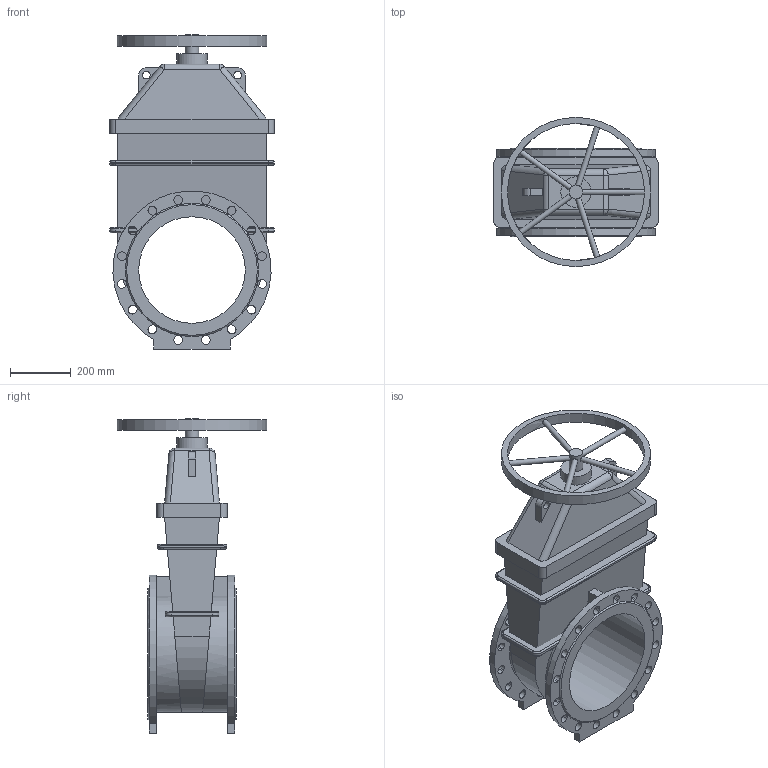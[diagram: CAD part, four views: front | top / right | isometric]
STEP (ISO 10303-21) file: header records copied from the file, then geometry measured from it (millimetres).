
FILE_DESCRIPTION(('STEP AP203'), '1');
FILE_NAME('Çàäâèæêà 47GV.Z DN350 PN10_PN16 ñ ìàõîâèêîì', '', ('UNSPECIFIED'), ('UNSPECIFIED'), 'ASCON STEP Converter 1.6', 'ASCON Math Kernel', '');
FILE_SCHEMA(('CONFIG_CONTROL_DESIGN'));
Length unit declared in the file: millimetre
Bounding box: 540 x 490 x 1032.5 mm (x, y, z)
Volume: 53957350.5 mm3; surface area: 2301676.6 mm2
Topology: 1 solids, 1 shells, 289 faces, 846 edges, 528 vertices
Faces by surface type: plane 143, cylinder 124, bspline 14, torus 6, cone 2
Full cylindrical faces by diameter (mm): 18 x5, 25 x2, 45 x1, 100 x1, 350 x1, 450 x1, 490 x1
Entity records: 14432 total; most frequent: CARTESIAN_POINT 4406, ORIENTED_EDGE 1622, DIRECTION 1567, EDGE_CURVE 811, AXIS2_PLACEMENT_3D 550, VERTEX_POINT 520, LINE 467, VECTOR 467
